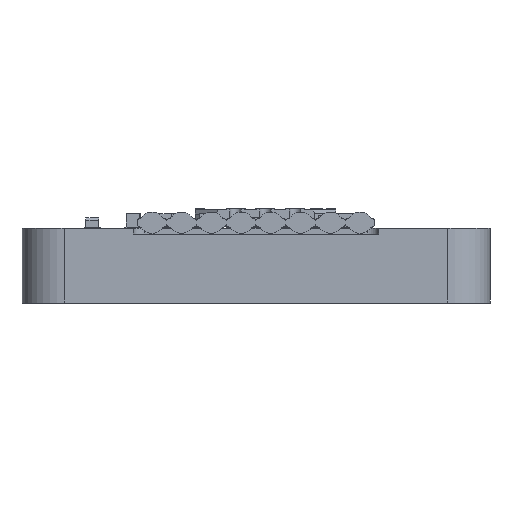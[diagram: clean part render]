
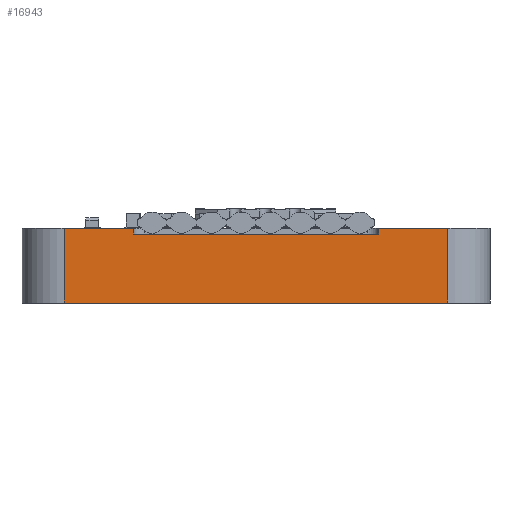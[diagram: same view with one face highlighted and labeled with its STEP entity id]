
A CAD part, front view. The second image highlights one B-rep face of the part: STEP entity #16943.
In plain terms, the highlighted planar face has unit normal (0, -1, 0) as drawn and (0, 0, -1) by its records, which use the part's own axes.
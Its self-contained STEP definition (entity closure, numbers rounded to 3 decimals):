
#27 = EDGE_CURVE ( 'NONE', #13622, #8691, #571, .T. ) ;
#193 = VERTEX_POINT ( 'NONE', #15042 ) ;
#491 = LINE ( 'NONE', #5009, #11073 ) ;
#571 = LINE ( 'NONE', #5060, #3605 ) ;
#694 = CARTESIAN_POINT ( 'NONE',  ( -5.25, 2.95, -10. ) ) ;
#1450 = EDGE_LOOP ( 'NONE', ( #13427, #6934, #9975, #1747, #10001, #11316, #12864, #11820 ) ) ;
#1649 = VERTEX_POINT ( 'NONE', #8103 ) ;
#1747 = ORIENTED_EDGE ( 'NONE', *, *, #8319, .T. ) ;
#1993 = DIRECTION ( 'NONE',  ( 0., 1., 0. ) ) ;
#2018 = LINE ( 'NONE', #2914, #15216 ) ;
#2215 = EDGE_CURVE ( 'NONE', #12550, #193, #14033, .T. ) ;
#2249 = EDGE_CURVE ( 'NONE', #11058, #193, #12316, .T. ) ;
#2341 = DIRECTION ( 'NONE',  ( 0., 0., 1. ) ) ;
#2914 = CARTESIAN_POINT ( 'NONE',  ( -5.25, 2.95, -10. ) ) ;
#2946 = FACE_OUTER_BOUND ( 'NONE', #1450, .T. ) ;
#3051 = DIRECTION ( 'NONE',  ( -1., 0., 0. ) ) ;
#3052 = EDGE_CURVE ( 'NONE', #6401, #12550, #17309, .T. ) ;
#3242 = DIRECTION ( 'NONE',  ( 0., 1., 0. ) ) ;
#3311 = CARTESIAN_POINT ( 'NONE',  ( -5.25, 2.95, -10. ) ) ;
#3605 = VECTOR ( 'NONE', #3864, 1000. ) ;
#3685 = VECTOR ( 'NONE', #15746, 1000. ) ;
#3864 = DIRECTION ( 'NONE',  ( 0., -1., 0. ) ) ;
#4018 = CARTESIAN_POINT ( 'NONE',  ( -5.25, 3.2, -10. ) ) ;
#4771 = VECTOR ( 'NONE', #6854, 1000. ) ;
#5009 = CARTESIAN_POINT ( 'NONE',  ( -10., 0., -10. ) ) ;
#5060 = CARTESIAN_POINT ( 'NONE',  ( 8.2, 3.2, -10. ) ) ;
#5151 = EDGE_CURVE ( 'NONE', #1649, #6401, #2018, .T. ) ;
#5380 = EDGE_CURVE ( 'NONE', #8691, #11058, #491, .T. ) ;
#6401 = VERTEX_POINT ( 'NONE', #694 ) ;
#6854 = DIRECTION ( 'NONE',  ( -1., 0., 0. ) ) ;
#6934 = ORIENTED_EDGE ( 'NONE', *, *, #3052, .F. ) ;
#7594 = CARTESIAN_POINT ( 'NONE',  ( -10., 3.2, -10. ) ) ;
#7761 = CARTESIAN_POINT ( 'NONE',  ( -8.2, 3.2, -10. ) ) ;
#8088 = AXIS2_PLACEMENT_3D ( 'NONE', #7594, #2341, #17308 ) ;
#8103 = CARTESIAN_POINT ( 'NONE',  ( 5.25, 2.95, -10. ) ) ;
#8126 = CARTESIAN_POINT ( 'NONE',  ( 8.2, 0., -10. ) ) ;
#8256 = CARTESIAN_POINT ( 'NONE',  ( -10., 3.2, -10. ) ) ;
#8319 = EDGE_CURVE ( 'NONE', #1649, #10213, #17711, .T. ) ;
#8691 = VERTEX_POINT ( 'NONE', #8126 ) ;
#9975 = ORIENTED_EDGE ( 'NONE', *, *, #5151, .F. ) ;
#10001 = ORIENTED_EDGE ( 'NONE', *, *, #14722, .F. ) ;
#10176 = CARTESIAN_POINT ( 'NONE',  ( 5.25, 2.95, -10. ) ) ;
#10213 = VERTEX_POINT ( 'NONE', #12513 ) ;
#10405 = VECTOR ( 'NONE', #3051, 1000. ) ;
#10538 = CARTESIAN_POINT ( 'NONE',  ( -8.2, 0., -10. ) ) ;
#11058 = VERTEX_POINT ( 'NONE', #10538 ) ;
#11073 = VECTOR ( 'NONE', #11825, 1000. ) ;
#11316 = ORIENTED_EDGE ( 'NONE', *, *, #27, .T. ) ;
#11706 = LINE ( 'NONE', #8256, #10405 ) ;
#11820 = ORIENTED_EDGE ( 'NONE', *, *, #2249, .T. ) ;
#11825 = DIRECTION ( 'NONE',  ( -1., 0., 0. ) ) ;
#12316 = LINE ( 'NONE', #7761, #15343 ) ;
#12379 = CARTESIAN_POINT ( 'NONE',  ( -10., 3.2, -10. ) ) ;
#12513 = CARTESIAN_POINT ( 'NONE',  ( 5.25, 3.2, -10. ) ) ;
#12550 = VERTEX_POINT ( 'NONE', #4018 ) ;
#12864 = ORIENTED_EDGE ( 'NONE', *, *, #5380, .T. ) ;
#13265 = CARTESIAN_POINT ( 'NONE',  ( 8.2, 3.2, -10. ) ) ;
#13427 = ORIENTED_EDGE ( 'NONE', *, *, #2215, .F. ) ;
#13622 = VERTEX_POINT ( 'NONE', #13265 ) ;
#14033 = LINE ( 'NONE', #12379, #4771 ) ;
#14722 = EDGE_CURVE ( 'NONE', #13622, #10213, #11706, .T. ) ;
#14765 = PLANE ( 'NONE',  #8088 ) ;
#15042 = CARTESIAN_POINT ( 'NONE',  ( -8.2, 3.2, -10. ) ) ;
#15216 = VECTOR ( 'NONE', #15298, 1000. ) ;
#15298 = DIRECTION ( 'NONE',  ( -1., 0., 0. ) ) ;
#15343 = VECTOR ( 'NONE', #1993, 1000. ) ;
#15746 = DIRECTION ( 'NONE',  ( 0., 1., 0. ) ) ;
#16403 = VECTOR ( 'NONE', #3242, 1000. ) ;
#16943 = ADVANCED_FACE ( 'NONE', ( #2946 ), #14765, .F. ) ;
#17308 = DIRECTION ( 'NONE',  ( 1., 0., 0. ) ) ;
#17309 = LINE ( 'NONE', #3311, #3685 ) ;
#17711 = LINE ( 'NONE', #10176, #16403 ) ;
